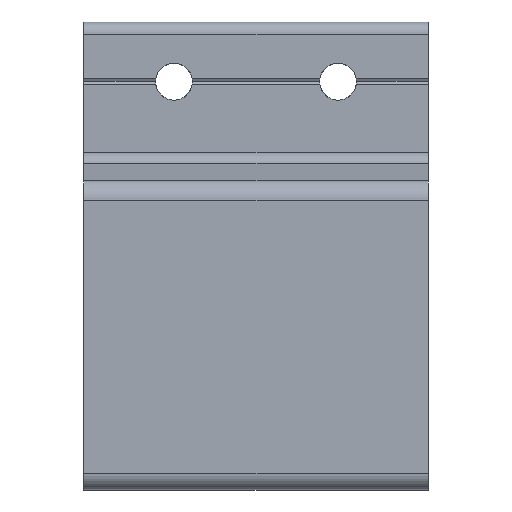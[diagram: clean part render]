
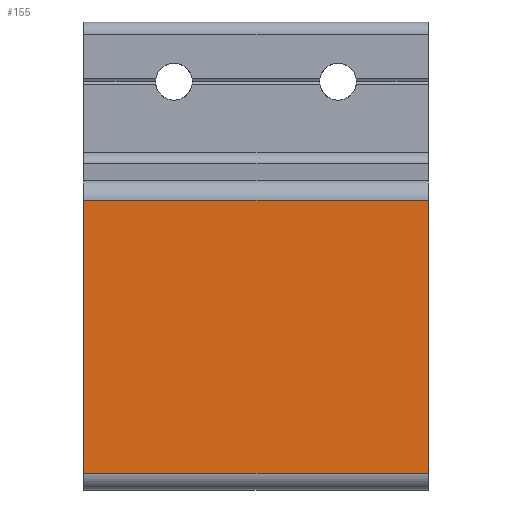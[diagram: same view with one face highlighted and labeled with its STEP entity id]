
A CAD part, top view. The second image highlights one B-rep face of the part: STEP entity #155.
In plain terms, the highlighted planar face has unit normal (0, 0, 1).
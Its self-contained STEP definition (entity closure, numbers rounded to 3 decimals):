
#1 = DIRECTION ( 'NONE',  ( 0., -1., 0. ) ) ;
#7 = VERTEX_POINT ( 'NONE', #1403 ) ;
#37 = LINE ( 'NONE', #621, #928 ) ;
#44 = LINE ( 'NONE', #1628, #1252 ) ;
#84 = VECTOR ( 'NONE', #153, 1000. ) ;
#102 = CARTESIAN_POINT ( 'NONE',  ( 144.1, 135.5, -181.4 ) ) ;
#114 = LINE ( 'NONE', #287, #758 ) ;
#153 = DIRECTION ( 'NONE',  ( -1., 0., 0. ) ) ;
#155 = ADVANCED_FACE ( 'NONE', ( #1003 ), #220, .T. ) ;
#159 = DIRECTION ( 'NONE',  ( 1., 0., 0. ) ) ;
#220 = PLANE ( 'NONE',  #352 ) ;
#287 = CARTESIAN_POINT ( 'NONE',  ( 144.1, 135.5, -181.4 ) ) ;
#352 = AXIS2_PLACEMENT_3D ( 'NONE', #102, #375, #658 ) ;
#375 = DIRECTION ( 'NONE',  ( 0., 0., 1. ) ) ;
#403 = ORIENTED_EDGE ( 'NONE', *, *, #1642, .T. ) ;
#426 = ORIENTED_EDGE ( 'NONE', *, *, #1028, .T. ) ;
#429 = ORIENTED_EDGE ( 'NONE', *, *, #693, .F. ) ;
#433 = CARTESIAN_POINT ( 'NONE',  ( 142.1, 202.036, -181.4 ) ) ;
#496 = ORIENTED_EDGE ( 'NONE', *, *, #1224, .F. ) ;
#534 = CARTESIAN_POINT ( 'NONE',  ( 226.1, 135.5, -181.4 ) ) ;
#621 = CARTESIAN_POINT ( 'NONE',  ( 226.1, 202.036, -181.4 ) ) ;
#658 = DIRECTION ( 'NONE',  ( 0., -1., 0. ) ) ;
#693 = EDGE_CURVE ( 'NONE', #7, #818, #37, .T. ) ;
#758 = VECTOR ( 'NONE', #159, 1000. ) ;
#779 = DIRECTION ( 'NONE',  ( 0., 1., 0. ) ) ;
#818 = VERTEX_POINT ( 'NONE', #534 ) ;
#928 = VECTOR ( 'NONE', #1, 1000. ) ;
#982 = VERTEX_POINT ( 'NONE', #433 ) ;
#1003 = FACE_OUTER_BOUND ( 'NONE', #1321, .T. ) ;
#1028 = EDGE_CURVE ( 'NONE', #7, #982, #1174, .T. ) ;
#1100 = VERTEX_POINT ( 'NONE', #1364 ) ;
#1174 = LINE ( 'NONE', #1553, #84 ) ;
#1224 = EDGE_CURVE ( 'NONE', #1100, #982, #44, .T. ) ;
#1252 = VECTOR ( 'NONE', #779, 1000. ) ;
#1321 = EDGE_LOOP ( 'NONE', ( #426, #496, #403, #429 ) ) ;
#1364 = CARTESIAN_POINT ( 'NONE',  ( 142.1, 135.5, -181.4 ) ) ;
#1403 = CARTESIAN_POINT ( 'NONE',  ( 226.1, 202.036, -181.4 ) ) ;
#1553 = CARTESIAN_POINT ( 'NONE',  ( 144.1, 202.036, -181.4 ) ) ;
#1628 = CARTESIAN_POINT ( 'NONE',  ( 142.1, 135.5, -181.4 ) ) ;
#1642 = EDGE_CURVE ( 'NONE', #1100, #818, #114, .T. ) ;
